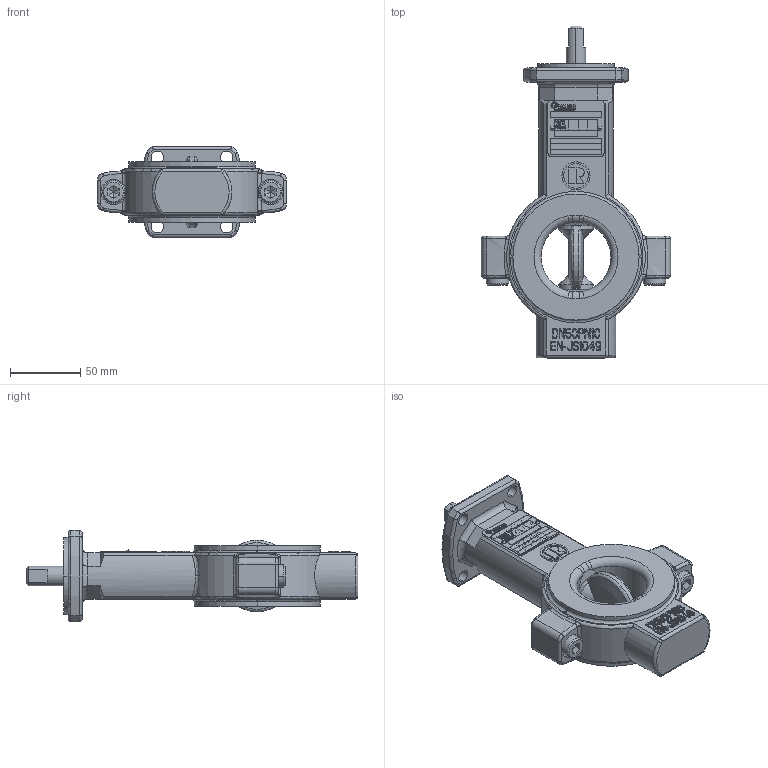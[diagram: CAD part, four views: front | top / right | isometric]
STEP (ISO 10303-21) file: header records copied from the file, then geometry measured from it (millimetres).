
FILE_DESCRIPTION((''),'2;1');
FILE_NAME('9520-00-5125_A_ASM','2014-04-29T',('SParmar1'),(''),'PRO/ENGINEER BY PARAMETRIC TECHNOLOGY CORPORATION, 2011040','PRO/ENGINEER BY PARAMETRIC TECHNOLOGY CORPORATION, 2011040','');
FILE_SCHEMA(('CONFIG_CONTROL_DESIGN'));
Products named in the file (5): 9527-14-7203; 9528_24_2121; 4111-51-1304; 4188_11_1060; 9520-00-5125_A_ASM
Assembly tree (5 placements, depth 2):
  9520-00-5125_A_ASM
    9527-14-7203
    9528_24_2121
    4111-51-1304  x2
    4188_11_1060
Bounding box: 135 x 237 x 65 mm (x, y, z)
Volume: 465429.1 mm3; surface area: 103357.7 mm2
Topology: 5 solids, 5 shells, 2979 faces, 8253 edges, 5446 vertices
Faces by surface type: plane 2695, cylinder 160, bspline 48, torus 44, cone 24, extrusion 4, sphere 4
Entity records: 95752 total; most frequent: CARTESIAN_POINT 20172, ORIENTED_EDGE 16410, DIRECTION 14179, EDGE_CURVE 8205, VECTOR 7611, LINE 7607, VERTEX_POINT 5421, AXIS2_PLACEMENT_3D 3284
